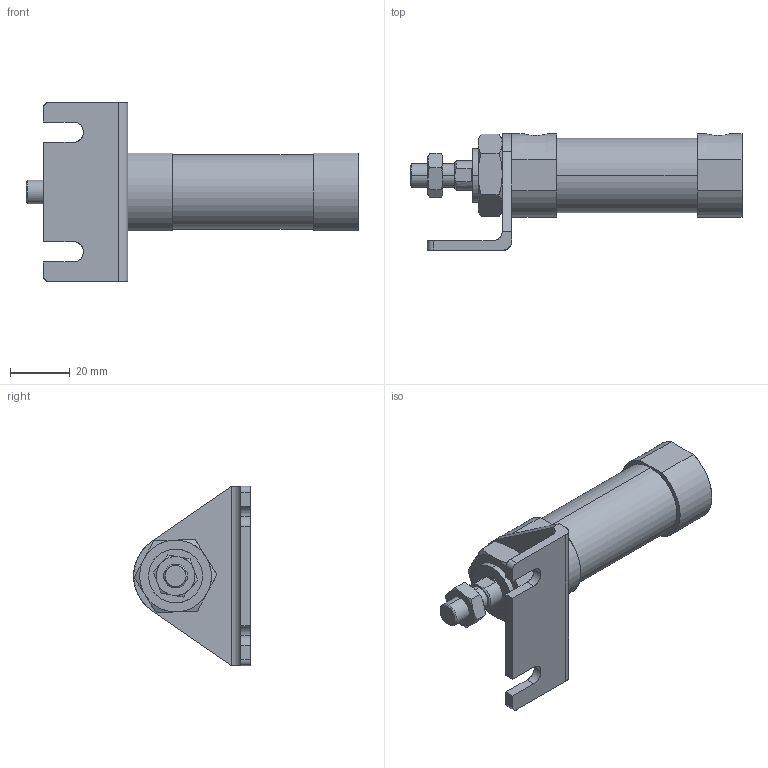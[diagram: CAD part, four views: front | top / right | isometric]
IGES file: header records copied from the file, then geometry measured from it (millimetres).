
Start section: SolidWorks IGES file using analytic representation for surfaces
Global section: file name: C:\Users\Toshiba\Desktop\JGND2-20-15-L.IGS; native system: SolidWorks 2014; preprocessor: SolidWorks 2014; author: Toshiba; date: 160804.101956; units: millimetre
Bounding box: 111 x 39 x 60 mm (x, y, z)
Surface area: 18013.4 mm2 (no closed solid volume)
Topology: 0 solids, 0 shells, 111 faces, 1814 edges, 1814 vertices
Faces by surface type: bspline 73, revolution 38
